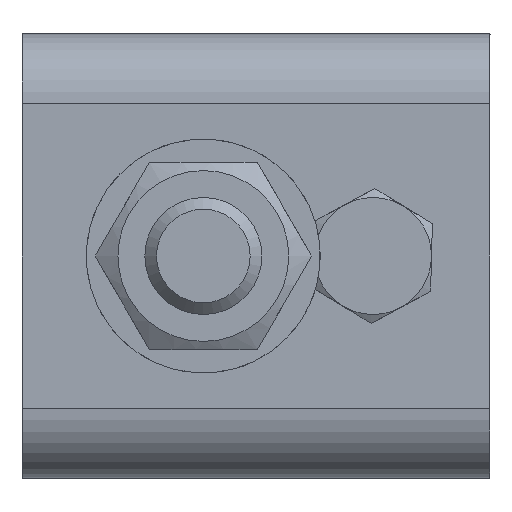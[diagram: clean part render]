
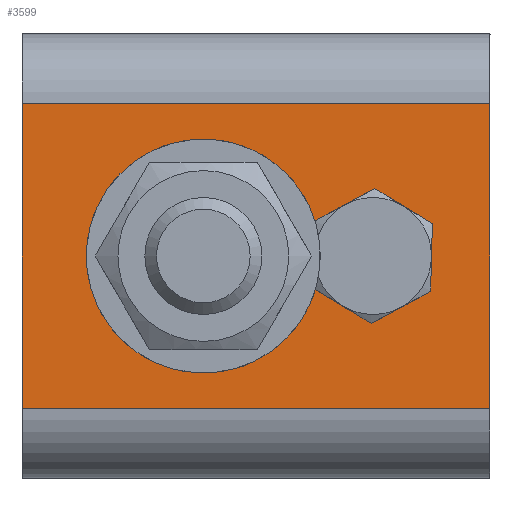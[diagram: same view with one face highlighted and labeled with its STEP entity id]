
A CAD part, left-side view. The second image highlights one B-rep face of the part: STEP entity #3599.
In plain terms, the highlighted planar face has unit normal (-1, 0, 0) as drawn and (0, 0, 1) by its records, which use the part's own axes.
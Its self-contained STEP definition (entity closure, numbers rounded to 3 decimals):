
#77=LINE('',#5494,#373);
#79=LINE('',#5498,#375);
#80=LINE('',#5500,#376);
#81=LINE('',#5501,#377);
#373=VECTOR('',#4321,40.);
#375=VECTOR('',#4325,26.);
#376=VECTOR('',#4326,40.);
#377=VECTOR('',#4327,26.);
#722=PLANE('',#3843);
#834=FACE_BOUND('',#1113,.T.);
#835=FACE_BOUND('',#1114,.T.);
#885=FACE_OUTER_BOUND('',#1112,.T.);
#1112=EDGE_LOOP('',(#2470,#2471,#2472,#2473));
#1113=EDGE_LOOP('',(#2474));
#1114=EDGE_LOOP('',(#2475));
#1373=CIRCLE('',#3844,2.459);
#1374=CIRCLE('',#3845,2.5);
#1578=VERTEX_POINT('',#5478);
#1581=VERTEX_POINT('',#5485);
#1583=VERTEX_POINT('',#5497);
#1584=VERTEX_POINT('',#5499);
#1585=VERTEX_POINT('',#5502);
#1586=VERTEX_POINT('',#5504);
#1929=EDGE_CURVE('',#1578,#1581,#77,.T.);
#1931=EDGE_CURVE('',#1581,#1583,#79,.T.);
#1932=EDGE_CURVE('',#1583,#1584,#80,.T.);
#1933=EDGE_CURVE('',#1584,#1578,#81,.T.);
#1934=EDGE_CURVE('',#1585,#1585,#1373,.T.);
#1935=EDGE_CURVE('',#1586,#1586,#1374,.T.);
#2470=ORIENTED_EDGE('',*,*,#1929,.T.);
#2471=ORIENTED_EDGE('',*,*,#1931,.T.);
#2472=ORIENTED_EDGE('',*,*,#1932,.T.);
#2473=ORIENTED_EDGE('',*,*,#1933,.T.);
#2474=ORIENTED_EDGE('',*,*,#1934,.T.);
#2475=ORIENTED_EDGE('',*,*,#1935,.T.);
#3599=ADVANCED_FACE('',(#885,#834,#835),#722,.T.);
#3843=AXIS2_PLACEMENT_3D('',#5496,#4323,#4324);
#3844=AXIS2_PLACEMENT_3D('',#5503,#4328,#4329);
#3845=AXIS2_PLACEMENT_3D('',#5505,#4330,#4331);
#4321=DIRECTION('',(0.,1.,0.));
#4323=DIRECTION('center_axis',(0.,0.,1.));
#4324=DIRECTION('ref_axis',(1.,0.,0.));
#4325=DIRECTION('',(-1.,0.,0.));
#4326=DIRECTION('',(0.,-1.,0.));
#4327=DIRECTION('',(1.,0.,0.));
#4328=DIRECTION('center_axis',(0.,0.,-1.));
#4329=DIRECTION('ref_axis',(1.,0.,0.));
#4330=DIRECTION('center_axis',(0.,0.,-1.));
#4331=DIRECTION('ref_axis',(-1.,0.,0.));
#5478=CARTESIAN_POINT('',(13.,-20.,0.));
#5485=CARTESIAN_POINT('',(13.,20.,0.));
#5494=CARTESIAN_POINT('',(13.,10.,0.));
#5496=CARTESIAN_POINT('Origin',(53.468,0.,0.));
#5497=CARTESIAN_POINT('',(-13.,20.,0.));
#5498=CARTESIAN_POINT('',(55.436,20.,0.));
#5499=CARTESIAN_POINT('',(-13.,-20.,0.));
#5500=CARTESIAN_POINT('',(-13.,-10.,0.));
#5501=CARTESIAN_POINT('',(-55.436,-20.,0.));
#5502=CARTESIAN_POINT('',(2.459,-10.,0.));
#5503=CARTESIAN_POINT('Origin',(0.,-10.,0.));
#5504=CARTESIAN_POINT('',(2.5,10.,0.));
#5505=CARTESIAN_POINT('Origin',(0.,10.,0.));
